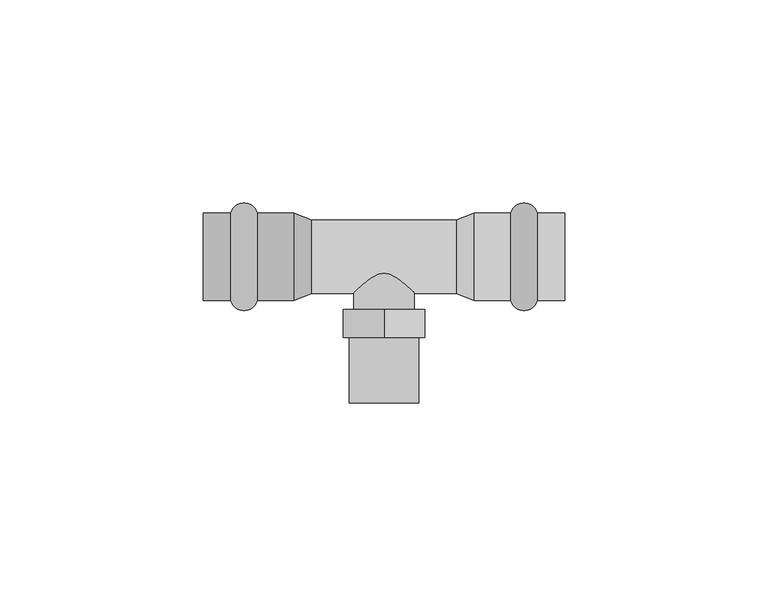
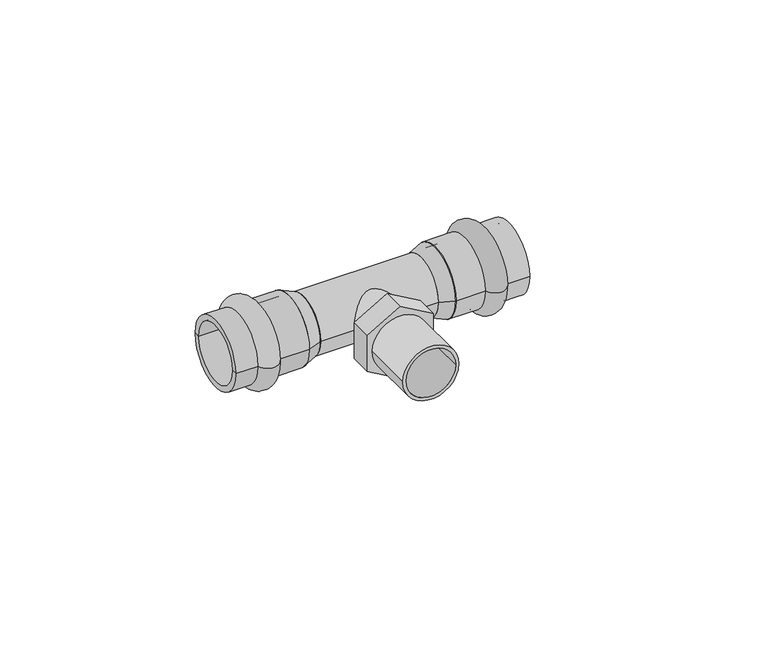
"""IFC4 building model written with IfcOpenShell, lengths in millimetres: pipe fitting geometry, VALTEC_VTi.933.I_Тройник с переходом на наружную  резьбу нержавеющая сталь : VTi.933.I."""

from ifc_helpers import new_model, si_unit, point, frame, origin, origin_2d, place, context, project, spatial, polyline, circle_curve, ellipse_curve, trimmed, segment, composite_curve, outline, extrude, source, transform, mapped, element, save
from ifc_brep_helpers import plane_surface, cylinder_surface, revolved_surface, advanced_brep


def pipe_fitting_4b42faa7(model_context):
    return source(origin(), model_context, "Body", "SolidModel", [
        advanced_brep(
        [(37.7287193, 10.75, 0.0), (37.7287193, -10.75, 0.0), (31.1712807, -10.75, 0.0), (31.1712807, 10.75, 0.0), (44.5, 10.75, 0.0), (44.5, -10.75, 0.0), (44.5, 9.0, 0.0), (44.5, -9.0, 0.0), (22.25, 9.0, 0.0), (22.25, -9.0, 0.0), (22.25, 10.75, 0.0), (22.25, -10.75, 0.0)],
        [
            (0, 1, circle_curve(frame((37.7287193, 0.0, 0.0), z_axis=(-1.0, 0.0, 0.0), x_axis=(0.0, -1.0, 0.0)), 10.75)),
            (1, 2, circle_curve(frame((34.45, -9.85, 0.0), z_axis=(0.0, 0.0, -1.0), x_axis=(-1.0, 0.0, 0.0)), 3.4)),
            (2, 3, circle_curve(frame((31.1712807, 0.0, 0.0), z_axis=(1.0, 0.0, 0.0), x_axis=(0.0, -1.0, 0.0)), 10.75)),
            (3, 0, circle_curve(frame((34.45, 9.85, 0.0), z_axis=(0.0, 0.0, -1.0), x_axis=(-1.0, 0.0, 0.0)), 3.4)),
            (1, 0, circle_curve(frame((37.7287193, 0.0, 0.0), z_axis=(-1.0, 0.0, 0.0), x_axis=(0.0, -1.0, 0.0)), 10.75)),
            (3, 2, circle_curve(frame((31.1712807, 0.0, 0.0), z_axis=(1.0, 0.0, 0.0), x_axis=(0.0, -1.0, 0.0)), 10.75)),
            (4, 5, circle_curve(frame((44.5, 0.0, 0.0), z_axis=(-1.0, 0.0, 0.0), x_axis=(0.0, -1.0, 0.0)), 10.75)),
            (5, 1),
            (0, 4),
            (5, 4, circle_curve(frame((44.5, 0.0, 0.0), z_axis=(-1.0, 0.0, 0.0), x_axis=(0.0, -1.0, 0.0)), 10.75)),
            (6, 7, circle_curve(frame((44.5, 0.0, 0.0), z_axis=(-1.0, 0.0, 0.0), x_axis=(0.0, -1.0, 0.0)), 9.0)),
            (7, 5),
            (4, 6),
            (7, 6, circle_curve(frame((44.5, 0.0, 0.0), z_axis=(-1.0, 0.0, 0.0), x_axis=(0.0, -1.0, 0.0)), 9.0)),
            (8, 9, circle_curve(frame((22.25, 0.0, 0.0), z_axis=(-1.0, 0.0, 0.0), x_axis=(0.0, -1.0, 0.0)), 9.0)),
            (9, 7),
            (6, 8),
            (9, 8, circle_curve(frame((22.25, 0.0, 0.0), z_axis=(-1.0, 0.0, 0.0), x_axis=(0.0, -1.0, 0.0)), 9.0)),
            (10, 11, circle_curve(frame((22.25, 0.0, 0.0), z_axis=(-1.0, 0.0, 0.0), x_axis=(0.0, -1.0, 0.0)), 10.75)),
            (11, 9),
            (8, 10),
            (11, 10, circle_curve(frame((22.25, 0.0, 0.0), z_axis=(-1.0, 0.0, 0.0), x_axis=(0.0, -1.0, 0.0)), 10.75)),
            (2, 11),
            (10, 3),
        ],
        [
            revolved_surface(trimmed(ellipse_curve(frame((34.45, -9.85, 0.0), z_axis=(0.0, 0.0, 1.0), x_axis=(-1.0, 0.0, 0.0)), 3.4, 3.4), [point((31.1712807, -10.75, 0.0))], [point((37.7287193, -10.75, 0.0))], True, "CARTESIAN"), (48.0364426, 0.0, 0.0), (1.0, 0.0, 0.0)),
            cylinder_surface(frame((48.0364426, 0.0, 0.0), z_axis=(1.0, 0.0, 0.0), x_axis=(0.0, -1.0, 0.0)), 10.75),
            plane_surface(frame((44.5, 0.0, 0.0), z_axis=(1.0, 0.0, 0.0), x_axis=(0.0, -1.0, 0.0))),
            revolved_surface(polyline([(44.5, -9.0, 0.0), (22.25, -9.0, 0.0)]), (48.0364426, 0.0, 0.0), (1.0, 0.0, 0.0)),
            plane_surface(frame((22.25, 0.0, 0.0), z_axis=(-1.0, 0.0, 0.0), x_axis=(0.0, -1.0, 0.0))),
        ],
        [
            (0, [[1, 2, 3, 4]]),
            (0, [[5, -4, 6, -2]]),
            (1, [[7, 8, -1, 9]]),
            (1, [[10, -9, -5, -8]]),
            (2, [[11, 12, -7, 13]]),
            (2, [[14, -13, -10, -12]]),
            (3, [[15, 16, -11, 17]]),
            (3, [[18, -17, -14, -16]]),
            (4, [[19, 20, -15, 21]]),
            (4, [[22, -21, -18, -20]]),
            (1, [[-3, 23, -19, 24]]),
            (1, [[-6, -24, -22, -23]]),
        ],
    ),
        advanced_brep(
        [(-37.7287193, -10.75, 0.0), (-37.7287193, 10.75, 0.0), (-31.1712807, 10.75, 0.0), (-31.1712807, -10.75, 0.0), (-44.5, -10.75, 0.0), (-44.5, 10.75, 0.0), (-44.5, -9.0, 0.0), (-44.5, 9.0, 0.0), (-22.25, -9.0, 0.0), (-22.25, 9.0, 0.0), (-22.25, -10.75, 0.0), (-22.25, 10.75, 0.0)],
        [
            (0, 1, circle_curve(frame((-37.7287193, 0.0, 0.0), z_axis=(1.0, 0.0, 0.0), x_axis=(0.0, 1.0, 0.0)), 10.75)),
            (1, 2, circle_curve(frame((-34.45, 9.85, 0.0), z_axis=(0.0, 0.0, -1.0), x_axis=(1.0, 0.0, 0.0)), 3.4)),
            (2, 3, circle_curve(frame((-31.1712807, 0.0, 0.0), z_axis=(-1.0, 0.0, 0.0), x_axis=(0.0, 1.0, 0.0)), 10.75)),
            (3, 0, circle_curve(frame((-34.45, -9.85, 0.0), z_axis=(0.0, 0.0, -1.0), x_axis=(1.0, 0.0, 0.0)), 3.4)),
            (1, 0, circle_curve(frame((-37.7287193, 0.0, 0.0), z_axis=(1.0, 0.0, 0.0), x_axis=(0.0, 1.0, 0.0)), 10.75)),
            (3, 2, circle_curve(frame((-31.1712807, 0.0, 0.0), z_axis=(-1.0, 0.0, 0.0), x_axis=(0.0, 1.0, 0.0)), 10.75)),
            (4, 5, circle_curve(frame((-44.5, 0.0, 0.0), z_axis=(1.0, 0.0, 0.0), x_axis=(0.0, 1.0, 0.0)), 10.75)),
            (5, 1),
            (0, 4),
            (5, 4, circle_curve(frame((-44.5, 0.0, 0.0), z_axis=(1.0, 0.0, 0.0), x_axis=(0.0, 1.0, 0.0)), 10.75)),
            (6, 7, circle_curve(frame((-44.5, 0.0, 0.0), z_axis=(1.0, 0.0, 0.0), x_axis=(0.0, 1.0, 0.0)), 9.0)),
            (7, 5),
            (4, 6),
            (7, 6, circle_curve(frame((-44.5, 0.0, 0.0), z_axis=(1.0, 0.0, 0.0), x_axis=(0.0, 1.0, 0.0)), 9.0)),
            (8, 9, circle_curve(frame((-22.25, 0.0, 0.0), z_axis=(1.0, 0.0, 0.0), x_axis=(0.0, 1.0, 0.0)), 9.0)),
            (9, 7),
            (6, 8),
            (9, 8, circle_curve(frame((-22.25, 0.0, 0.0), z_axis=(1.0, 0.0, 0.0), x_axis=(0.0, 1.0, 0.0)), 9.0)),
            (10, 11, circle_curve(frame((-22.25, 0.0, 0.0), z_axis=(1.0, 0.0, 0.0), x_axis=(0.0, 1.0, 0.0)), 10.75)),
            (11, 9),
            (8, 10),
            (11, 10, circle_curve(frame((-22.25, 0.0, 0.0), z_axis=(1.0, 0.0, 0.0), x_axis=(0.0, 1.0, 0.0)), 10.75)),
            (2, 11),
            (10, 3),
        ],
        [
            revolved_surface(trimmed(ellipse_curve(frame((-34.45, 9.85, 0.0), z_axis=(0.0, 0.0, 1.0), x_axis=(1.0, 0.0, 0.0)), 3.4, 3.4), [point((-31.1712807, 10.75, 0.0))], [point((-37.7287193, 10.75, 0.0))], True, "CARTESIAN"), (-48.0364426, 0.0, 0.0), (-1.0, 0.0, 0.0)),
            cylinder_surface(frame((-48.0364426, 0.0, 0.0), z_axis=(-1.0, 0.0, 0.0), x_axis=(0.0, 1.0, 0.0)), 10.75),
            plane_surface(frame((-44.5, 0.0, 0.0), z_axis=(-1.0, 0.0, 0.0), x_axis=(0.0, 1.0, 0.0))),
            revolved_surface(polyline([(-44.5, 9.0, 0.0), (-22.25, 9.0, 0.0)]), (-48.0364426, 0.0, 0.0), (-1.0, 0.0, 0.0)),
            plane_surface(frame((-22.25, 0.0, 0.0), z_axis=(1.0, 0.0, 0.0), x_axis=(0.0, 1.0, 0.0))),
        ],
        [
            (0, [[1, 2, 3, 4]]),
            (0, [[5, -4, 6, -2]]),
            (1, [[7, 8, -1, 9]]),
            (1, [[10, -9, -5, -8]]),
            (2, [[11, 12, -7, 13]]),
            (2, [[14, -13, -10, -12]]),
            (3, [[15, 16, -11, 17]]),
            (3, [[18, -17, -14, -16]]),
            (4, [[19, 20, -15, 21]]),
            (4, [[22, -21, -18, -20]]),
            (1, [[-3, 23, -19, 24]]),
            (1, [[-6, -24, -22, -23]]),
        ],
    ),
        extrude(outline(composite_curve([segment(trimmed(circle_curve(origin_2d(), 8.5), [point((0.0, -8.5))], [point((0.0, 8.5))], False, "CARTESIAN"), True, "CONTINUOUS"), segment(trimmed(circle_curve(origin_2d(), 8.5), [point((0.0, 8.5))], [point((0.0, -8.5))], False, "CARTESIAN"), True, "CONTINUOUS")], self_intersect=False), holes=[composite_curve([segment(trimmed(circle_curve(origin_2d(), 7.5), [point((0.0, -7.5))], [point((0.0, 7.5))], True, "CARTESIAN"), True, "CONTINUOUS"), segment(trimmed(circle_curve(origin_2d(), 7.5), [point((0.0, 7.5))], [point((0.0, -7.5))], True, "CARTESIAN"), True, "CONTINUOUS")], self_intersect=False)]), frame((0.0, -36.0, 0.0), z_axis=(0.0, 1.0, 0.0), x_axis=(0.0, 0.0, 1.0)), (0.0, 0.0, 1.0), 16.1),
        extrude(outline(polyline([(11.5470054, 0.0), (5.7735027, -10.0), (-5.7735027, -10.0), (-11.5470054, 0.0), (-5.7735027, 10.0), (5.7735027, 10.0), (11.5470054, 0.0)]), holes=[composite_curve([segment(trimmed(circle_curve(origin_2d(), 7.5), [point((0.0, -7.5))], [point((0.0, 7.5))], True, "CARTESIAN"), True, "CONTINUOUS"), segment(trimmed(circle_curve(origin_2d(), 7.5), [point((0.0, 7.5))], [point((0.0, -7.5))], True, "CARTESIAN"), True, "CONTINUOUS")], self_intersect=False)]), frame((0.0, -19.9, 0.0), z_axis=(0.0, 1.0, 0.0), x_axis=(0.0, 0.0, 1.0)), (0.0, 0.0, 1.0), 6.9),
        extrude(outline(composite_curve([segment(trimmed(circle_curve(origin_2d(), 7.5), [point((0.0, -7.5))], [point((0.0, 7.5))], False, "CARTESIAN"), True, "CONTINUOUS"), segment(trimmed(circle_curve(origin_2d(), 7.5), [point((0.0, 7.5))], [point((0.0, -7.5))], False, "CARTESIAN"), True, "CONTINUOUS")], self_intersect=False)), frame((0.0, -13.0, 0.0), z_axis=(0.0, 1.0, 0.0), x_axis=(0.0, 0.0, 1.0)), (0.0, 0.0, 1.0), 13.0),
        extrude(outline(composite_curve([segment(trimmed(circle_curve(origin_2d(), 9.0), [point((-9.0, 0.0))], [point((9.0, 0.0))], False, "CARTESIAN"), True, "CONTINUOUS"), segment(trimmed(circle_curve(origin_2d(), 9.0), [point((9.0, 0.0))], [point((-9.0, 0.0))], False, "CARTESIAN"), True, "CONTINUOUS")], self_intersect=False)), frame((-17.8, 0.0, 0.0), z_axis=(1.0, 0.0, 0.0), x_axis=(0.0, 1.0, 0.0)), (0.0, 0.0, 1.0), 35.6),
        advanced_brep(
        [(22.25, -10.75, 0.0), (22.25, 10.75, 0.0), (17.8, -9.0, 0.0), (17.8, 9.0, 0.0)],
        [
            (0, 1, circle_curve(frame((22.25, 0.0, 0.0), z_axis=(1.0, 0.0, 0.0), x_axis=(0.0, -1.0, 0.0)), 10.75)),
            (1, 0, circle_curve(frame((22.25, 0.0, 0.0), z_axis=(1.0, 0.0, 0.0), x_axis=(0.0, 1.0, 0.0)), 10.75)),
            (2, 3, circle_curve(frame((17.8, 0.0, 0.0), z_axis=(-1.0, 0.0, 0.0), x_axis=(0.0, 1.0, 0.0)), 9.0)),
            (3, 2, circle_curve(frame((17.8, 0.0, 0.0), z_axis=(-1.0, 0.0, 0.0), x_axis=(0.0, -1.0, 0.0)), 9.0)),
            (3, 1),
            (0, 2),
        ],
        [
            plane_surface(frame((22.25, 0.0, 0.0), z_axis=(1.0, 0.0, 0.0), x_axis=(0.0, 0.0, 1.0))),
            plane_surface(frame((17.8, 0.0, 0.0), z_axis=(-1.0, 0.0, 0.0), x_axis=(0.0, 0.0, 1.0))),
            revolved_surface(polyline([(17.8, 9.000000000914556, 0.0), (22.25, 10.75, 0.0)]), (-5.0857143, 0.0, 0.0), (1.0, 0.0, 0.0)),
            revolved_surface(polyline([(17.8, -9.000000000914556, 0.0), (22.25, -10.75, 0.0)]), (-5.0857143, 0.0, 0.0), (1.0, 0.0, 0.0)),
        ],
        [
            (0, [[1, 2]]),
            (1, [[3, 4]]),
            (2, [[-4, 5, -1, 6]]),
            (3, [[-3, -6, -2, -5]]),
        ],
    ),
        advanced_brep(
        [(-22.25, -10.75, 0.0), (-22.25, 10.75, 0.0), (-17.8, -9.0, 0.0), (-17.8, 9.0, 0.0)],
        [
            (0, 1, circle_curve(frame((-22.25, 0.0, 0.0), z_axis=(-1.0, 0.0, 0.0), x_axis=(0.0, -1.0, 0.0)), 10.75)),
            (1, 0, circle_curve(frame((-22.25, 0.0, 0.0), z_axis=(-1.0, 0.0, 0.0), x_axis=(0.0, 1.0, 0.0)), 10.75)),
            (2, 3, circle_curve(frame((-17.8, 0.0, 0.0), z_axis=(1.0, 0.0, 0.0), x_axis=(0.0, 1.0, 0.0)), 9.0)),
            (3, 2, circle_curve(frame((-17.8, 0.0, 0.0), z_axis=(1.0, 0.0, 0.0), x_axis=(0.0, -1.0, 0.0)), 9.0)),
            (2, 0),
            (1, 3),
        ],
        [
            plane_surface(frame((-22.25, 0.0, 0.0), z_axis=(-1.0, 0.0, 0.0), x_axis=(0.0, 0.0, -1.0))),
            plane_surface(frame((-17.8, 0.0, 0.0), z_axis=(1.0, 0.0, 0.0), x_axis=(0.0, 0.0, -1.0))),
            revolved_surface(polyline([(-17.8, -9.000000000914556, 0.0), (-22.25, -10.75, 0.0)]), (5.0857143, 0.0, 0.0), (-1.0, 0.0, 0.0)),
            revolved_surface(polyline([(-17.8, 9.000000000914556, 0.0), (-22.25, 10.75, 0.0)]), (5.0857143, 0.0, 0.0), (-1.0, 0.0, 0.0)),
        ],
        [
            (0, [[1, 2]]),
            (1, [[3, 4]]),
            (2, [[-3, 5, -2, 6]]),
            (3, [[-4, -6, -1, -5]]),
        ],
    ),
    ])


if __name__ == "__main__":
    model = new_model("IFC4")
    model_context = context("Model", 3, world=origin())
    ifc_project = project(units=[si_unit("LENGTHUNIT", "METRE", prefix="MILLI")], contexts=[model_context])
    site = spatial("IfcSite", under=ifc_project)
    building = spatial("IfcBuilding", under=site)
    placement = place(None, origin())
    pipe_fitting_shape = pipe_fitting_4b42faa7(model_context)
    element("IfcPipeFitting", 1, ObjectType="VALTEC_VTi.933.I_Тройник с переходом на наружную  резьбу нержавеющая сталь : VTi.933.I", at=placement, inside=building, context=model_context, shape_type="MappedRepresentation", body=[
        mapped(pipe_fitting_shape, transform((0.0, 0.0, 0.0), x_axis=(1.0, 0.0, 0.0), y_axis=(0.0, 1.0, 0.0), z_axis=(0.0, 0.0, 1.0))),
    ])
    save(model, "model.ifc")
